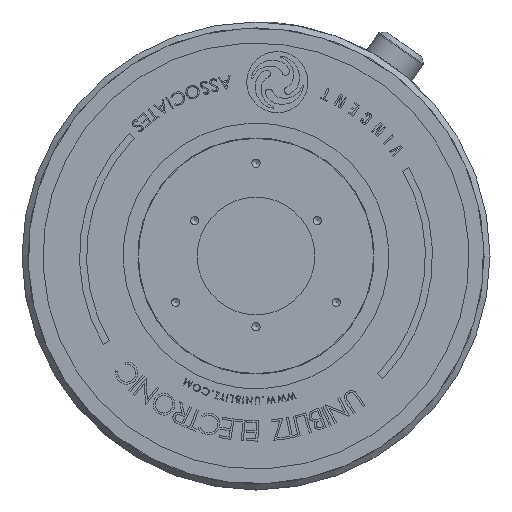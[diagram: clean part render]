
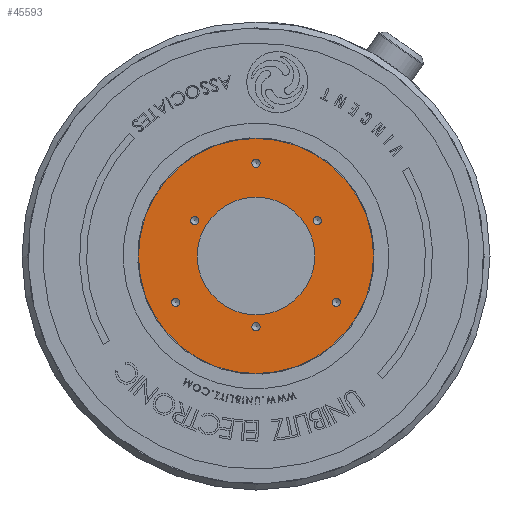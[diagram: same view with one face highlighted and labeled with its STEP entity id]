
A CAD part, front view. The second image highlights one B-rep face of the part: STEP entity #45593.
In plain terms, the highlighted planar face has unit normal (0, -1, 0).
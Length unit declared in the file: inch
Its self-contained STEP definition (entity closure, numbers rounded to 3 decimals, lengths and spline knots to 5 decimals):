
#44 = DIRECTION ( 'NONE',  ( 0., -1., 0. ) ) ;
#353 = VERTEX_POINT ( 'NONE', #25461 ) ;
#397 = CIRCLE ( 'NONE', #28166, 0.035 ) ;
#657 = FACE_BOUND ( 'NONE', #34587, .T. ) ;
#849 = CIRCLE ( 'NONE', #9286, 0.035 ) ;
#901 = FACE_BOUND ( 'NONE', #18079, .T. ) ;
#2473 = AXIS2_PLACEMENT_3D ( 'NONE', #18288, #14148, #7669 ) ;
#4461 = CARTESIAN_POINT ( 'NONE',  ( 0., 0., -0.602 ) ) ;
#5522 = CIRCLE ( 'NONE', #2473, 0.035 ) ;
#6563 = CARTESIAN_POINT ( 'NONE',  ( 0.52135, 0., 0.301 ) ) ;
#6750 = DIRECTION ( 'NONE',  ( 0., 0., -1. ) ) ;
#7045 = DIRECTION ( 'NONE',  ( 0., 0., -1. ) ) ;
#7354 = DIRECTION ( 'NONE',  ( 0., 0., -1. ) ) ;
#7669 = DIRECTION ( 'NONE',  ( 0., 0., -1. ) ) ;
#8043 = CARTESIAN_POINT ( 'NONE',  ( 0., 0., 0. ) ) ;
#8439 = EDGE_CURVE ( 'NONE', #20688, #20688, #5522, .T. ) ;
#9060 = FACE_BOUND ( 'NONE', #15172, .T. ) ;
#9226 = VERTEX_POINT ( 'NONE', #16702 ) ;
#9286 = AXIS2_PLACEMENT_3D ( 'NONE', #4461, #25683, #7354 ) ;
#11131 = ORIENTED_EDGE ( 'NONE', *, *, #8439, .F. ) ;
#11232 = EDGE_CURVE ( 'NONE', #38769, #38769, #397, .T. ) ;
#11480 = EDGE_CURVE ( 'NONE', #41869, #41869, #35504, .T. ) ;
#12383 = AXIS2_PLACEMENT_3D ( 'NONE', #8043, #45627, #45399 ) ;
#14148 = DIRECTION ( 'NONE',  ( 0., -1., 0. ) ) ;
#14325 = EDGE_LOOP ( 'NONE', ( #34658 ) ) ;
#14403 = ORIENTED_EDGE ( 'NONE', *, *, #11232, .F. ) ;
#15172 = EDGE_LOOP ( 'NONE', ( #14403 ) ) ;
#15784 = PLANE ( 'NONE',  #28218 ) ;
#15829 = CARTESIAN_POINT ( 'NONE',  ( 0., 0., -0.5 ) ) ;
#16088 = DIRECTION ( 'NONE',  ( 0., -1., 0. ) ) ;
#16383 = ORIENTED_EDGE ( 'NONE', *, *, #21446, .F. ) ;
#16702 = CARTESIAN_POINT ( 'NONE',  ( 0.52135, 0., 0.266 ) ) ;
#16947 = EDGE_CURVE ( 'NONE', #18448, #18448, #17501, .T. ) ;
#17470 = CIRCLE ( 'NONE', #39793, 0.035 ) ;
#17501 = CIRCLE ( 'NONE', #36810, 0.035 ) ;
#18079 = EDGE_LOOP ( 'NONE', ( #11131 ) ) ;
#18199 = VERTEX_POINT ( 'NONE', #41521 ) ;
#18288 = CARTESIAN_POINT ( 'NONE',  ( -0.68329, 0., -0.3945 ) ) ;
#18448 = VERTEX_POINT ( 'NONE', #25928 ) ;
#18683 = VERTEX_POINT ( 'NONE', #44227 ) ;
#19175 = ORIENTED_EDGE ( 'NONE', *, *, #24101, .T. ) ;
#19502 = EDGE_CURVE ( 'NONE', #353, #353, #849, .T. ) ;
#20186 = ORIENTED_EDGE ( 'NONE', *, *, #19502, .F. ) ;
#20688 = VERTEX_POINT ( 'NONE', #23608 ) ;
#21446 = EDGE_CURVE ( 'NONE', #18683, #18683, #46391, .T. ) ;
#22846 = CARTESIAN_POINT ( 'NONE',  ( 0., 0., 1. ) ) ;
#23608 = CARTESIAN_POINT ( 'NONE',  ( -0.68329, 0., -0.4295 ) ) ;
#24101 = EDGE_CURVE ( 'NONE', #18199, #18199, #44983, .T. ) ;
#24606 = DIRECTION ( 'NONE',  ( 0., -1., 0. ) ) ;
#24744 = DIRECTION ( 'NONE',  ( 0., -1., 0. ) ) ;
#25461 = CARTESIAN_POINT ( 'NONE',  ( 0., 0., -0.637 ) ) ;
#25683 = DIRECTION ( 'NONE',  ( 0., -1., 0. ) ) ;
#25928 = CARTESIAN_POINT ( 'NONE',  ( 0.68329, 0., -0.4295 ) ) ;
#26421 = DIRECTION ( 'NONE',  ( 0., 0., -1. ) ) ;
#27188 = DIRECTION ( 'NONE',  ( 0., 0., 1. ) ) ;
#28166 = AXIS2_PLACEMENT_3D ( 'NONE', #44089, #24606, #6750 ) ;
#28218 = AXIS2_PLACEMENT_3D ( 'NONE', #22846, #45448, #27188 ) ;
#28871 = AXIS2_PLACEMENT_3D ( 'NONE', #41886, #16088, #45745 ) ;
#30838 = FACE_BOUND ( 'NONE', #14325, .T. ) ;
#31201 = EDGE_LOOP ( 'NONE', ( #20186 ) ) ;
#33713 = FACE_BOUND ( 'NONE', #31201, .T. ) ;
#34119 = EDGE_CURVE ( 'NONE', #9226, #9226, #17470, .T. ) ;
#34587 = EDGE_LOOP ( 'NONE', ( #41399 ) ) ;
#34646 = FACE_BOUND ( 'NONE', #39597, .T. ) ;
#34658 = ORIENTED_EDGE ( 'NONE', *, *, #34119, .F. ) ;
#35504 = CIRCLE ( 'NONE', #12383, 0.5 ) ;
#36305 = CARTESIAN_POINT ( 'NONE',  ( -0.52135, 0., 0.301 ) ) ;
#36810 = AXIS2_PLACEMENT_3D ( 'NONE', #45409, #45876, #26421 ) ;
#38769 = VERTEX_POINT ( 'NONE', #41627 ) ;
#39597 = EDGE_LOOP ( 'NONE', ( #46267 ) ) ;
#39793 = AXIS2_PLACEMENT_3D ( 'NONE', #6563, #44, #7045 ) ;
#39881 = DIRECTION ( 'NONE',  ( 0., 0., -1. ) ) ;
#40966 = EDGE_LOOP ( 'NONE', ( #19175 ) ) ;
#41106 = FACE_BOUND ( 'NONE', #44394, .T. ) ;
#41399 = ORIENTED_EDGE ( 'NONE', *, *, #16947, .F. ) ;
#41521 = CARTESIAN_POINT ( 'NONE',  ( 0., 0., -1. ) ) ;
#41627 = CARTESIAN_POINT ( 'NONE',  ( 0., 0., 0.754 ) ) ;
#41869 = VERTEX_POINT ( 'NONE', #15829 ) ;
#41886 = CARTESIAN_POINT ( 'NONE',  ( 0., 0., 0. ) ) ;
#44089 = CARTESIAN_POINT ( 'NONE',  ( 0., 0., 0.789 ) ) ;
#44130 = AXIS2_PLACEMENT_3D ( 'NONE', #36305, #24744, #39881 ) ;
#44227 = CARTESIAN_POINT ( 'NONE',  ( -0.52135, 0., 0.266 ) ) ;
#44394 = EDGE_LOOP ( 'NONE', ( #16383 ) ) ;
#44725 = FACE_OUTER_BOUND ( 'NONE', #40966, .T. ) ;
#44983 = CIRCLE ( 'NONE', #28871, 1. ) ;
#45399 = DIRECTION ( 'NONE',  ( 0., 0., -1. ) ) ;
#45409 = CARTESIAN_POINT ( 'NONE',  ( 0.68329, 0., -0.3945 ) ) ;
#45448 = DIRECTION ( 'NONE',  ( 0., 1., 0. ) ) ;
#45593 = ADVANCED_FACE ( 'NONE', ( #41106, #901, #9060, #34646, #44725, #33713, #657, #30838 ), #15784, .F. ) ;
#45627 = DIRECTION ( 'NONE',  ( 0., -1., 0. ) ) ;
#45745 = DIRECTION ( 'NONE',  ( 0., 0., -1. ) ) ;
#45876 = DIRECTION ( 'NONE',  ( 0., -1., 0. ) ) ;
#46267 = ORIENTED_EDGE ( 'NONE', *, *, #11480, .F. ) ;
#46391 = CIRCLE ( 'NONE', #44130, 0.035 ) ;
